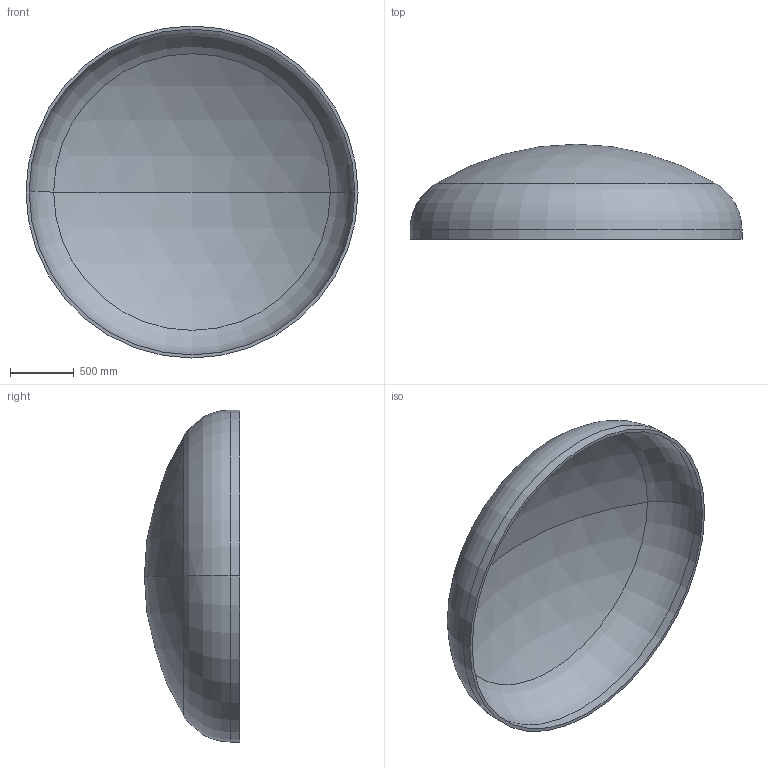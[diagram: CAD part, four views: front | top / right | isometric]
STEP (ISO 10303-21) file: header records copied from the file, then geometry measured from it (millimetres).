
FILE_DESCRIPTION (( 'STEP AP203' ), '1' );
FILE_NAME ('DIN 28013 Korbbogenform_-_Boden DIN 28013 - 2600 x 75 - I - s=25.step', '2016-07-01T16:01:59', ( '' ), ( '' ), 'SwSTEP 2.0', 'SolidWorks 2013', '' );
FILE_SCHEMA (( 'CONFIG_CONTROL_DESIGN' ));
Length unit declared in the file: millimetre
Products named in the file (1): DIN 28013 Korbbogenform_-_Boden DIN 28013 - 2600 x 75 - I - s=25
Bounding box: 2600 x 745.85 x 2600 mm (x, y, z)
Volume: 196642073.5 mm3; surface area: 15934909.1 mm2
Topology: 1 solids, 1 shells, 13 faces, 24 edges, 14 vertices
Faces by surface type: torus 4, cylinder 4, sphere 4, plane 1
Entity records: 407 total; most frequent: DIRECTION 72, CARTESIAN_POINT 52, ORIENTED_EDGE 48, AXIS2_PLACEMENT_3D 34, EDGE_CURVE 24, CIRCLE 20, EDGE_LOOP 14, VERTEX_POINT 14
